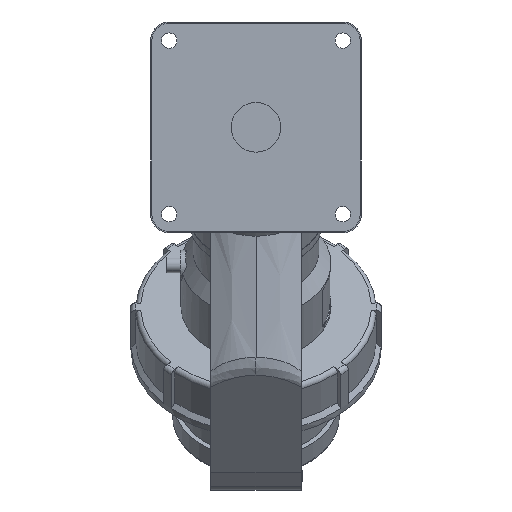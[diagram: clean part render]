
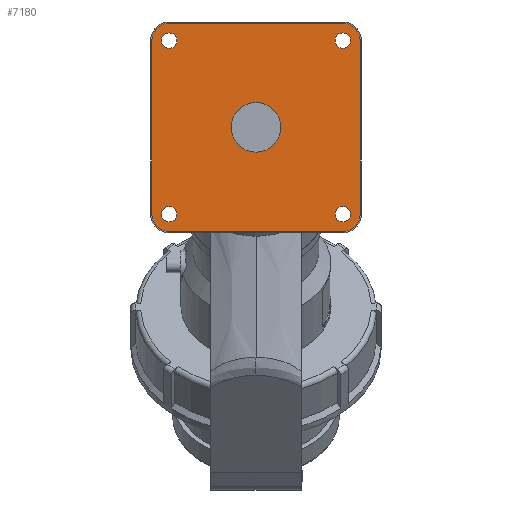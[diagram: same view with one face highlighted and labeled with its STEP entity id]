
A CAD part, front view. The second image highlights one B-rep face of the part: STEP entity #7180.
In plain terms, the highlighted planar face has unit normal (0, -1, 0).
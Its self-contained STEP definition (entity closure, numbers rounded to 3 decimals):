
#814=CARTESIAN_POINT('',(-35.,-1.98,-35.));
#815=DIRECTION('',(0.,1.,0.));
#816=DIRECTION('',(0.,0.,-1.));
#817=AXIS2_PLACEMENT_3D('',#814,#815,#816);
#822=DIRECTION('',(0.,0.,1.));
#823=VECTOR('',#822,70.);
#824=CARTESIAN_POINT('',(-42.,-1.98,-35.));
#825=LINE('906',#824,#823);
#829=CARTESIAN_POINT('',(-35.,-1.98,35.));
#830=DIRECTION('',(0.,1.,0.));
#831=DIRECTION('',(-1.,0.,0.));
#832=AXIS2_PLACEMENT_3D('',#829,#830,#831);
#837=DIRECTION('',(1.,0.,0.));
#838=VECTOR('',#837,70.);
#839=CARTESIAN_POINT('',(-35.,-1.98,42.));
#840=LINE('908',#839,#838);
#844=CARTESIAN_POINT('',(35.,-1.98,35.));
#845=DIRECTION('',(0.,1.,0.));
#846=DIRECTION('',(0.,0.,1.));
#847=AXIS2_PLACEMENT_3D('',#844,#845,#846);
#852=DIRECTION('',(0.,0.,-1.));
#853=VECTOR('',#852,70.);
#854=CARTESIAN_POINT('',(42.,-1.98,35.));
#855=LINE('910',#854,#853);
#859=CARTESIAN_POINT('',(35.,-1.98,-35.));
#860=DIRECTION('',(0.,1.,0.));
#861=DIRECTION('',(1.,0.,0.));
#862=AXIS2_PLACEMENT_3D('',#859,#860,#861);
#867=DIRECTION('',(-1.,0.,0.));
#868=VECTOR('',#867,70.);
#869=CARTESIAN_POINT('',(35.,-1.98,-42.));
#870=LINE('912',#869,#868);
#874=CARTESIAN_POINT('',(-35.,-1.98,-35.));
#875=DIRECTION('',(0.,-1.,0.));
#876=DIRECTION('',(1.,0.,0.));
#877=AXIS2_PLACEMENT_3D('',#874,#875,#876);
#882=CARTESIAN_POINT('',(-35.,-1.98,-35.));
#883=DIRECTION('',(0.,-1.,0.));
#884=DIRECTION('',(-1.,0.,0.));
#885=AXIS2_PLACEMENT_3D('',#882,#883,#884);
#890=CARTESIAN_POINT('',(35.,-1.98,-35.));
#891=DIRECTION('',(0.,-1.,0.));
#892=DIRECTION('',(1.,0.,0.));
#893=AXIS2_PLACEMENT_3D('',#890,#891,#892);
#898=CARTESIAN_POINT('',(35.,-1.98,-35.));
#899=DIRECTION('',(0.,-1.,0.));
#900=DIRECTION('',(-1.,0.,0.));
#901=AXIS2_PLACEMENT_3D('',#898,#899,#900);
#906=CARTESIAN_POINT('',(35.,-1.98,35.));
#907=DIRECTION('',(0.,-1.,0.));
#908=DIRECTION('',(1.,0.,0.));
#909=AXIS2_PLACEMENT_3D('',#906,#907,#908);
#914=CARTESIAN_POINT('',(35.,-1.98,35.));
#915=DIRECTION('',(0.,-1.,0.));
#916=DIRECTION('',(-1.,0.,0.));
#917=AXIS2_PLACEMENT_3D('',#914,#915,#916);
#922=CARTESIAN_POINT('',(-35.,-1.98,35.));
#923=DIRECTION('',(0.,-1.,0.));
#924=DIRECTION('',(1.,0.,0.));
#925=AXIS2_PLACEMENT_3D('',#922,#923,#924);
#930=CARTESIAN_POINT('',(-35.,-1.98,35.));
#931=DIRECTION('',(0.,-1.,0.));
#932=DIRECTION('',(-1.,0.,0.));
#933=AXIS2_PLACEMENT_3D('',#930,#931,#932);
#938=CARTESIAN_POINT('',(0.,-1.98,0.));
#939=DIRECTION('',(0.,-1.,0.));
#940=DIRECTION('',(1.,0.,0.));
#941=AXIS2_PLACEMENT_3D('',#938,#939,#940);
#946=CARTESIAN_POINT('',(0.,-1.98,0.));
#947=DIRECTION('',(0.,-1.,0.));
#948=DIRECTION('',(-1.,0.,0.));
#949=AXIS2_PLACEMENT_3D('',#946,#947,#948);
#6481=CARTESIAN_POINT('',(-31.9,-1.98,-35.));
#6482=CARTESIAN_POINT('',(-38.1,-1.98,-35.));
#6483=VERTEX_POINT('',#6481);
#6484=VERTEX_POINT('',#6482);
#6485=CARTESIAN_POINT('',(38.1,-1.98,-35.));
#6486=CARTESIAN_POINT('',(31.9,-1.98,-35.));
#6487=VERTEX_POINT('',#6485);
#6488=VERTEX_POINT('',#6486);
#6489=CARTESIAN_POINT('',(38.1,-1.98,35.));
#6490=CARTESIAN_POINT('',(31.9,-1.98,35.));
#6491=VERTEX_POINT('',#6489);
#6492=VERTEX_POINT('',#6490);
#6493=CARTESIAN_POINT('',(-31.9,-1.98,35.));
#6494=CARTESIAN_POINT('',(-38.1,-1.98,35.));
#6495=VERTEX_POINT('',#6493);
#6496=VERTEX_POINT('',#6494);
#6497=CARTESIAN_POINT('',(10.,-1.98,0.));
#6498=CARTESIAN_POINT('',(-10.,-1.98,0.));
#6499=VERTEX_POINT('',#6497);
#6500=VERTEX_POINT('',#6498);
#6501=CARTESIAN_POINT('',(-35.,-1.98,-42.));
#6502=CARTESIAN_POINT('',(-42.,-1.98,-35.));
#6503=VERTEX_POINT('',#6501);
#6504=VERTEX_POINT('',#6502);
#6505=CARTESIAN_POINT('',(-42.,-1.98,35.));
#6506=VERTEX_POINT('',#6505);
#6507=CARTESIAN_POINT('',(-35.,-1.98,42.));
#6508=VERTEX_POINT('',#6507);
#6509=CARTESIAN_POINT('',(35.,-1.98,42.));
#6510=VERTEX_POINT('',#6509);
#6511=CARTESIAN_POINT('',(42.,-1.98,35.));
#6512=VERTEX_POINT('',#6511);
#6513=CARTESIAN_POINT('',(42.,-1.98,-35.));
#6514=VERTEX_POINT('',#6513);
#6515=CARTESIAN_POINT('',(35.,-1.98,-42.));
#6516=VERTEX_POINT('',#6515);
#7129=CARTESIAN_POINT('',(0.,-1.98,0.));
#7130=DIRECTION('',(0.,1.,0.));
#7131=DIRECTION('',(1.,0.,0.));
#7132=AXIS2_PLACEMENT_3D('',#7129,#7130,#7131);
#7133=PLANE('251',#7132);
#7135=ORIENTED_EDGE('905',*,*,#7134,.T.);
#7137=ORIENTED_EDGE('906',*,*,#7136,.T.);
#7139=ORIENTED_EDGE('907',*,*,#7138,.T.);
#7141=ORIENTED_EDGE('908',*,*,#7140,.T.);
#7143=ORIENTED_EDGE('909',*,*,#7142,.T.);
#7145=ORIENTED_EDGE('910',*,*,#7144,.T.);
#7147=ORIENTED_EDGE('911',*,*,#7146,.T.);
#7149=ORIENTED_EDGE('912',*,*,#7148,.T.);
#7150=EDGE_LOOP('251',(#7135,#7137,#7139,#7141,#7143,#7145,#7147,#7149));
#7151=FACE_OUTER_BOUND('251',#7150,.F.);
#7153=ORIENTED_EDGE('895',*,*,#7152,.T.);
#7155=ORIENTED_EDGE('896',*,*,#7154,.T.);
#7156=EDGE_LOOP('251',(#7153,#7155));
#7157=FACE_BOUND('251',#7156,.F.);
#7159=ORIENTED_EDGE('897',*,*,#7158,.T.);
#7161=ORIENTED_EDGE('898',*,*,#7160,.T.);
#7162=EDGE_LOOP('251',(#7159,#7161));
#7163=FACE_BOUND('251',#7162,.F.);
#7165=ORIENTED_EDGE('899',*,*,#7164,.T.);
#7167=ORIENTED_EDGE('900',*,*,#7166,.T.);
#7168=EDGE_LOOP('251',(#7165,#7167));
#7169=FACE_BOUND('251',#7168,.F.);
#7170=ORIENTED_EDGE('901',*,*,#7084,.T.);
#7171=ORIENTED_EDGE('902',*,*,#7110,.T.);
#7172=EDGE_LOOP('251',(#7170,#7171));
#7173=FACE_BOUND('251',#7172,.F.);
#7175=ORIENTED_EDGE('903',*,*,#7174,.T.);
#7177=ORIENTED_EDGE('904',*,*,#7176,.T.);
#7178=EDGE_LOOP('251',(#7175,#7177));
#7179=FACE_BOUND('251',#7178,.F.);
#818=CIRCLE('905',#817,7.);
#833=CIRCLE('907',#832,7.);
#848=CIRCLE('909',#847,7.);
#863=CIRCLE('911',#862,7.);
#878=CIRCLE('895',#877,3.1);
#886=CIRCLE('896',#885,3.1);
#894=CIRCLE('897',#893,3.1);
#902=CIRCLE('898',#901,3.1);
#910=CIRCLE('899',#909,3.1);
#918=CIRCLE('900',#917,3.1);
#926=CIRCLE('901',#925,3.1);
#934=CIRCLE('902',#933,3.1);
#942=CIRCLE('903',#941,10.);
#950=CIRCLE('904',#949,10.);
#7084=EDGE_CURVE('901',#6495,#6496,#926,.T.);
#7110=EDGE_CURVE('902',#6496,#6495,#934,.T.);
#7134=EDGE_CURVE('905',#6503,#6504,#818,.T.);
#7136=EDGE_CURVE('906',#6504,#6506,#825,.T.);
#7138=EDGE_CURVE('907',#6506,#6508,#833,.T.);
#7140=EDGE_CURVE('908',#6508,#6510,#840,.T.);
#7142=EDGE_CURVE('909',#6510,#6512,#848,.T.);
#7144=EDGE_CURVE('910',#6512,#6514,#855,.T.);
#7146=EDGE_CURVE('911',#6514,#6516,#863,.T.);
#7148=EDGE_CURVE('912',#6516,#6503,#870,.T.);
#7152=EDGE_CURVE('895',#6483,#6484,#878,.T.);
#7154=EDGE_CURVE('896',#6484,#6483,#886,.T.);
#7158=EDGE_CURVE('897',#6487,#6488,#894,.T.);
#7160=EDGE_CURVE('898',#6488,#6487,#902,.T.);
#7164=EDGE_CURVE('899',#6491,#6492,#910,.T.);
#7166=EDGE_CURVE('900',#6492,#6491,#918,.T.);
#7174=EDGE_CURVE('903',#6499,#6500,#942,.T.);
#7176=EDGE_CURVE('904',#6500,#6499,#950,.T.);
#7180=ADVANCED_FACE('251',(#7151,#7157,#7163,#7169,#7173,#7179),#7133,.F.);
